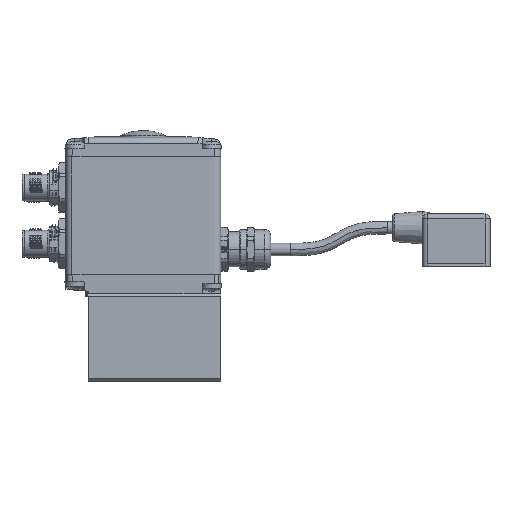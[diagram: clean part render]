
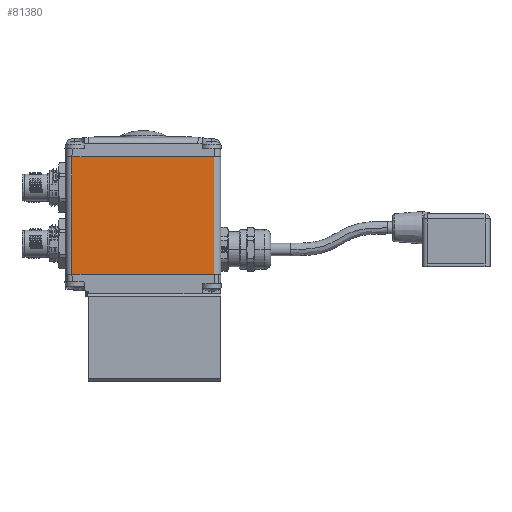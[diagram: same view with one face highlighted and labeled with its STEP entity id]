
A CAD part, top view. The second image highlights one B-rep face of the part: STEP entity #81380.
In plain terms, the highlighted planar face has unit normal (0, 0, 1).
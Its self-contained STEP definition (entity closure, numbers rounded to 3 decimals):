
#1032 = ORIENTED_EDGE ( 'NONE', *, *, #62158, .T. ) ;
#1035 = ORIENTED_EDGE ( 'NONE', *, *, #62169, .T. ) ;
#1039 = ORIENTED_EDGE ( 'NONE', *, *, #62157, .F. ) ;
#1043 = ORIENTED_EDGE ( 'NONE', *, *, #61827, .F. ) ;
#6084 = FACE_OUTER_BOUND ( 'NONE', #56790, .T. ) ;
#9685 = AXIS2_PLACEMENT_3D ( 'NONE', #95411, #95412, #95413 ) ;
#22780 = VERTEX_POINT ( 'NONE', #57338 ) ;
#22784 = VERTEX_POINT ( 'NONE', #57345 ) ;
#22863 = VERTEX_POINT ( 'NONE', #57492 ) ;
#22872 = VERTEX_POINT ( 'NONE', #57508 ) ;
#56790 = EDGE_LOOP ( 'NONE', ( #1039, #1043, #1032, #1035 ) ) ;
#57338 = CARTESIAN_POINT ( 'NONE',  ( -2.5, 72.3, 17.65 ) ) ;
#57345 = CARTESIAN_POINT ( 'NONE',  ( -2.5, 25.3, 17.65 ) ) ;
#57492 = CARTESIAN_POINT ( 'NONE',  ( -59.5, 25.3, 17.65 ) ) ;
#57508 = CARTESIAN_POINT ( 'NONE',  ( -59.5, 72.3, 17.65 ) ) ;
#61827 = EDGE_CURVE ( 'NONE', #22780, #22784, #68191, .T. ) ;
#62157 = EDGE_CURVE ( 'NONE', #22784, #22863, #68612, .T. ) ;
#62158 = EDGE_CURVE ( 'NONE', #22780, #22872, #68614, .T. ) ;
#62169 = EDGE_CURVE ( 'NONE', #22872, #22863, #68632, .T. ) ;
#68191 = LINE ( 'NONE', #71808, #68193 ) ;
#68193 = VECTOR ( 'NONE', #71810, 1000. ) ;
#68612 = LINE ( 'NONE', #72338, #68615 ) ;
#68614 = LINE ( 'NONE', #72340, #68617 ) ;
#68615 = VECTOR ( 'NONE', #72339, 1000. ) ;
#68617 = VECTOR ( 'NONE', #72342, 1000. ) ;
#68632 = LINE ( 'NONE', #72359, #68634 ) ;
#68634 = VECTOR ( 'NONE', #72360, 1000. ) ;
#71808 = CARTESIAN_POINT ( 'NONE',  ( -2.5, 72.3, 17.65 ) ) ;
#71810 = DIRECTION ( 'NONE',  ( 0., -1., 0. ) ) ;
#72338 = CARTESIAN_POINT ( 'NONE',  ( -59.5, 25.3, 17.65 ) ) ;
#72339 = DIRECTION ( 'NONE',  ( -1., 0., 0. ) ) ;
#72340 = CARTESIAN_POINT ( 'NONE',  ( -59.5, 72.3, 17.65 ) ) ;
#72342 = DIRECTION ( 'NONE',  ( -1., 0., 0. ) ) ;
#72359 = CARTESIAN_POINT ( 'NONE',  ( -59.5, 72.3, 17.65 ) ) ;
#72360 = DIRECTION ( 'NONE',  ( 0., -1., 0. ) ) ;
#81380 = ADVANCED_FACE ( 'NONE', ( #6084 ), #95391, .F. ) ;
#95391 = PLANE ( 'NONE',  #9685 ) ;
#95411 = CARTESIAN_POINT ( 'NONE',  ( -59.5, 72.3, 17.65 ) ) ;
#95412 = DIRECTION ( 'NONE',  ( 0., 0., -1. ) ) ;
#95413 = DIRECTION ( 'NONE',  ( 1., 0., 0. ) ) ;
